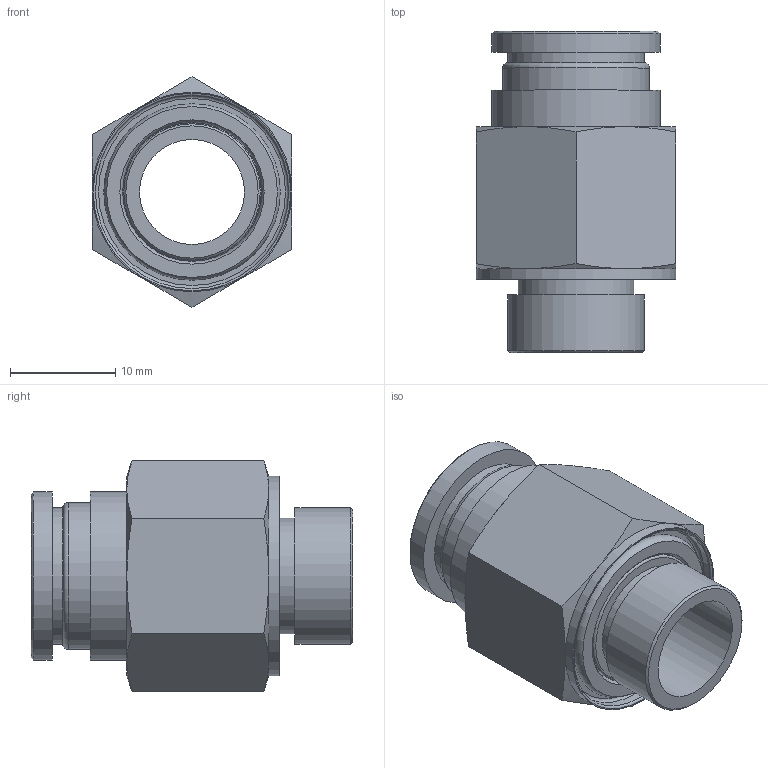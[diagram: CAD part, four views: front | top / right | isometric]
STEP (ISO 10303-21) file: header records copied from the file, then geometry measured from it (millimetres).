
FILE_DESCRIPTION(/* description */ (''),/* implementation_level */ '2;1');
FILE_NAME(/* name */ 'LXH18 0012 B2.stp',/* time_stamp */ '2026-04-20T19:39:45+02:00',/* author */ ('freju'),/* organization */ (''),/* preprocessor_version */ 'ST-DEVELOPER v20.1',/* originating_system */ 'Autodesk Inventor 2026',/* authorisation */ '');
FILE_SCHEMA (('AUTOMOTIVE_DESIGN { 1 0 10303 214 3 1 1 }'));
Length unit declared in the file: millimetre
Products named in the file (4): LXH18 0012 B2; LXH18 0012 B2_1; O-Ring; ISO 3601-1 - A 0132 G
Assembly tree (3 placements, depth 3):
  LXH18 0012 B2
    LXH18 0012 B2_1
    O-Ring
      ISO 3601-1 - A 0132 G
Bounding box: 19 x 30.6 x 21.94 mm (x, y, z)
Volume: 3981.2 mm3; surface area: 3718.8 mm2
Topology: 2 solids, 2 shells, 50 faces, 101 edges, 63 vertices
Faces by surface type: plane 18, cone 14, cylinder 11, torus 7
Full cylindrical faces by diameter (mm): 10 x1, 11 x1, 12 x1, 13 x2, 13.2 x1, 14 x1, 16 x2, 18.4 x1, 19 x1
Entity records: 1445 total; most frequent: CARTESIAN_POINT 269, DIRECTION 249, ORIENTED_EDGE 202, AXIS2_PLACEMENT_3D 115, EDGE_CURVE 101, VERTEX_POINT 63, EDGE_LOOP 62, CIRCLE 58
